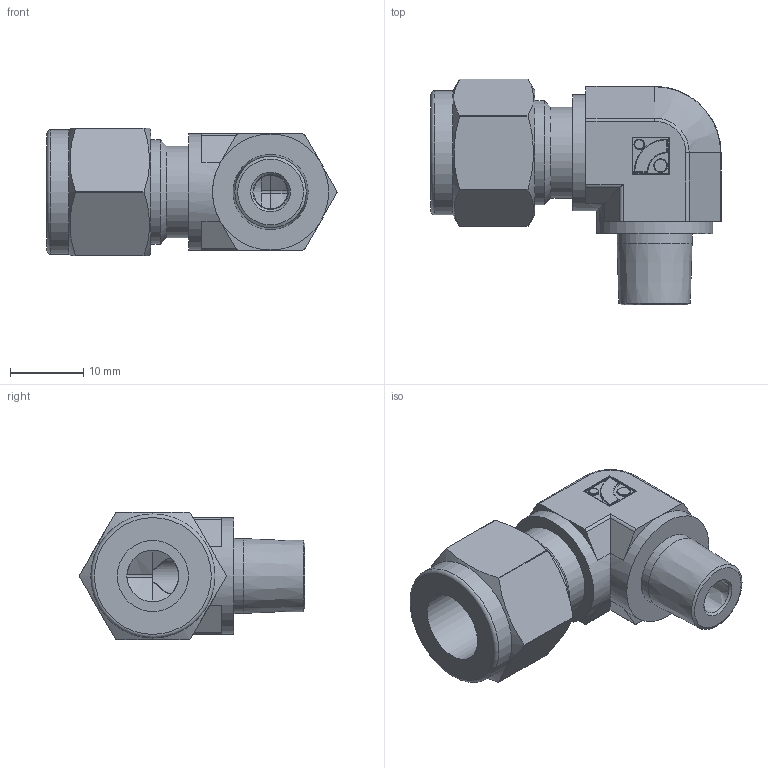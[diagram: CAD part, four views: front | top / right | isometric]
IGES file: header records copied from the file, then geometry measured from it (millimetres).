
Global section: file name: No Iges File Name specified; native system: Autodesk Inventor 2012; preprocessor: AutoDesk Inventor Iges Exporter R2012; author: 硅己绕,,1; organization: 1; date: 20150703.114038; units: millimetre
Bounding box: 39.72 x 30.88 x 17.5 mm (x, y, z)
Volume: 7678.9 mm3; surface area: 4194.1 mm2
Topology: 1 solids, 1 shells, 117 faces, 266 edges, 156 vertices
Faces by surface type: plane 43, cylinder 35, revolution 20, torus 8, cone 7, sphere 4
Full cylindrical faces by diameter (mm): 1.35 x1, 1.8 x1, 10.28 x1, 12.5 x1, 14.28 x1, 15.9 x2, 17 x1
